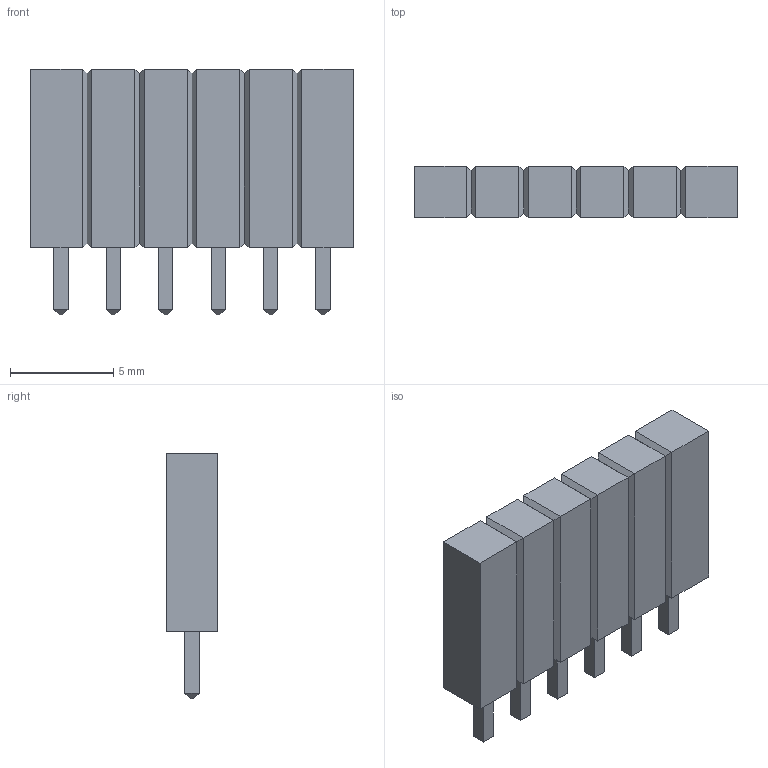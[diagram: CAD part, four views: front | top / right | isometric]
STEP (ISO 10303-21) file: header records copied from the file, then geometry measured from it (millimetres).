
FILE_DESCRIPTION(('FreeCAD Model'),'2;1');
FILE_NAME('/var/www/3D/0T/553575.4.1.stp','2026-01-02T13:27:03',( 'Author'),(''),'Open CASCADE STEP processor 6.9','FreeCAD','Unknown' );
FILE_SCHEMA(('AUTOMOTIVE_DESIGN { 1 0 10303 214 1 1 1 1 }'));
Length unit declared in the file: millimetre
Products named in the file (3): ASSEMBLY; Body; LeadsArray
Assembly tree (2 placements, depth 2):
  ASSEMBLY
    Body
    LeadsArray
Bounding box: 15.64 x 2.5 x 11.9 mm (x, y, z)
Volume: 366.3 mm3; surface area: 606.1 mm2
Topology: 7 solids, 7 shells, 150 faces, 300 edges, 164 vertices
Faces by surface type: plane 150
Entity records: 7581 total; most frequent: CARTESIAN_POINT 1297, DIRECTION 1126, LINE 820, VECTOR 820, ORIENTED_EDGE 600, PCURVE 600, DEFINITIONAL_REPRESENTATION 600, EDGE_CURVE 300
